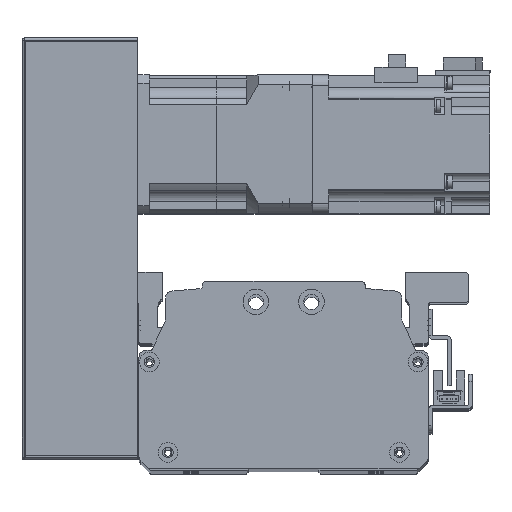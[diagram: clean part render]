
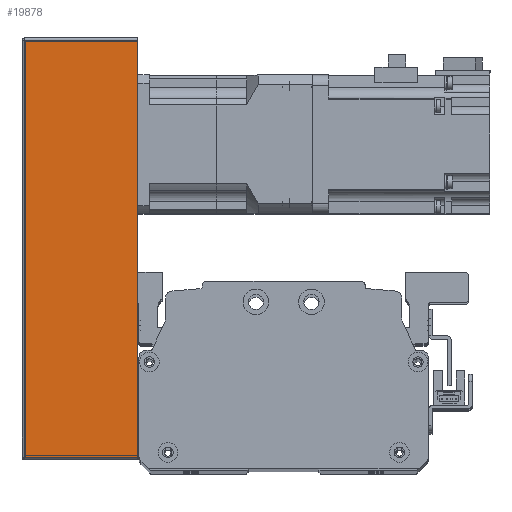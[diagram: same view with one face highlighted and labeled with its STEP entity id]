
A CAD part, top view. The second image highlights one B-rep face of the part: STEP entity #19878.
In plain terms, the highlighted planar face has unit normal (0, 0, 1) as drawn and (0, -1, 0) by its records, which use the part's own axes.
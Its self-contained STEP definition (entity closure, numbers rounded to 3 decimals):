
#604=PLANE('',#21842);
#1823=LINE('',#32800,#3447);
#1832=LINE('',#32839,#3456);
#1835=LINE('',#32849,#3459);
#1836=LINE('',#32851,#3460);
#3447=VECTOR('',#26518,10.);
#3456=VECTOR('',#26567,10.);
#3459=VECTOR('',#26584,10.);
#3460=VECTOR('',#26587,10.);
#5826=FACE_OUTER_BOUND('',#7278,.T.);
#7278=EDGE_LOOP('',(#17111,#17112,#17113,#17114));
#10157=VERTEX_POINT('',#32797);
#10158=VERTEX_POINT('',#32799);
#10167=VERTEX_POINT('',#32836);
#10168=VERTEX_POINT('',#32838);
#12605=EDGE_CURVE('',#10157,#10158,#1823,.T.);
#12625=EDGE_CURVE('',#10167,#10168,#1832,.T.);
#12631=EDGE_CURVE('',#10168,#10157,#1835,.T.);
#12632=EDGE_CURVE('',#10158,#10167,#1836,.T.);
#17111=ORIENTED_EDGE('',*,*,#12625,.F.);
#17112=ORIENTED_EDGE('',*,*,#12632,.F.);
#17113=ORIENTED_EDGE('',*,*,#12605,.F.);
#17114=ORIENTED_EDGE('',*,*,#12631,.F.);
#19878=ADVANCED_FACE('',(#5826),#604,.T.);
#21842=AXIS2_PLACEMENT_3D('',#32850,#26585,#26586);
#26518=DIRECTION('',(1.,0.,0.));
#26567=DIRECTION('',(-1.,0.,0.));
#26584=DIRECTION('',(0.,0.,1.));
#26585=DIRECTION('center_axis',(0.,-1.,0.));
#26586=DIRECTION('ref_axis',(1.,0.,0.));
#26587=DIRECTION('',(0.,0.,-1.));
#32797=CARTESIAN_POINT('',(-90.,-38.,25.));
#32799=CARTESIAN_POINT('',(90.,-38.,25.));
#32800=CARTESIAN_POINT('',(91.,-38.,25.));
#32836=CARTESIAN_POINT('',(90.,-38.,-24.));
#32838=CARTESIAN_POINT('',(-90.,-38.,-24.));
#32839=CARTESIAN_POINT('',(-45.5,-38.,-24.));
#32849=CARTESIAN_POINT('',(-90.,-38.,0.));
#32850=CARTESIAN_POINT('Origin',(-91.,-38.,0.));
#32851=CARTESIAN_POINT('',(90.,-38.,0.));
